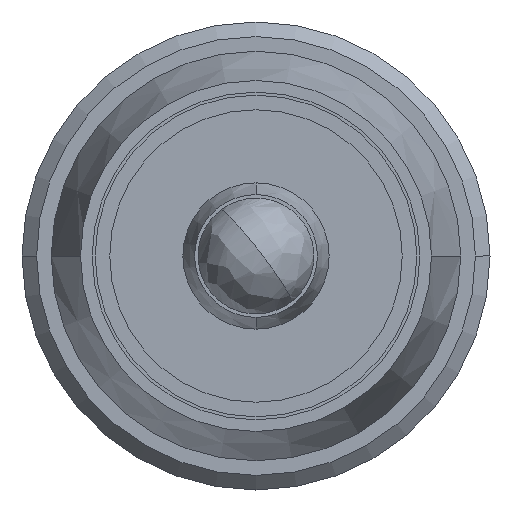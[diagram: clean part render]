
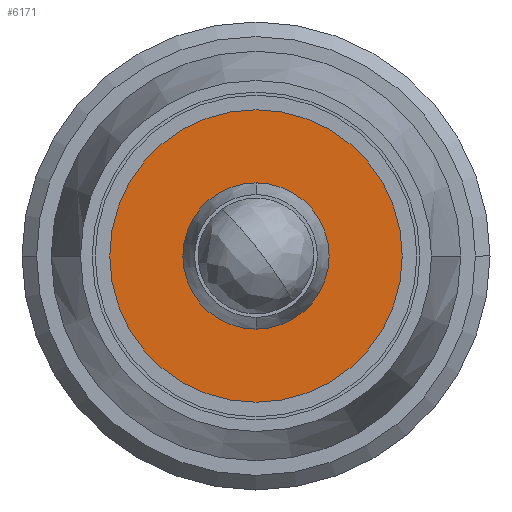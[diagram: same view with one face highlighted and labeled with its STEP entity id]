
A CAD part, left-side view. The second image highlights one B-rep face of the part: STEP entity #6171.
In plain terms, the highlighted planar face has unit normal (-1, 0, 0).
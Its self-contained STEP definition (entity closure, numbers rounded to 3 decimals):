
#1240 = DIRECTION ( 'NONE',  ( 1., 0., 0. ) ) ;
#1241 = CARTESIAN_POINT ( 'NONE',  ( -44.181, 4.117, 0. ) ) ;
#1243 = AXIS2_PLACEMENT_3D ( 'NONE', #1241, #1240, #1286 ) ;
#1244 = CIRCLE ( 'NONE', #1243, 2.5 ) ;
#1286 = DIRECTION ( 'NONE',  ( 0., 0., -1. ) ) ;
#1398 = DIRECTION ( 'NONE',  ( 0., 1., 0. ) ) ;
#1399 = DIRECTION ( 'NONE',  ( 1., 0., 0. ) ) ;
#1400 = CARTESIAN_POINT ( 'NONE',  ( -44.181, 4.117, 0. ) ) ;
#1401 = AXIS2_PLACEMENT_3D ( 'NONE', #1400, #1399, #1398 ) ;
#1402 = CIRCLE ( 'NONE', #1401, 5. ) ;
#1403 = DIRECTION ( 'NONE',  ( 0., -1., 0. ) ) ;
#1404 = DIRECTION ( 'NONE',  ( -1., 0., 0. ) ) ;
#1405 = CARTESIAN_POINT ( 'NONE',  ( -44.181, 0.511, 1.03 ) ) ;
#1406 = AXIS2_PLACEMENT_3D ( 'NONE', #1405, #1404, #1403 ) ;
#1407 = FACE_OUTER_BOUND ( 'NONE', #6175, .T. ) ;
#1408 = FACE_BOUND ( 'NONE', #6172, .T. ) ;
#1413 = PLANE ( 'NONE',  #1406 ) ;
#1556 = CARTESIAN_POINT ( 'NONE',  ( -44.181, 4.117, -2.5 ) ) ;
#1557 = CARTESIAN_POINT ( 'NONE',  ( -44.181, 4.117, 2.5 ) ) ;
#1558 = DIRECTION ( 'NONE',  ( 0., 0., -1. ) ) ;
#1559 = DIRECTION ( 'NONE',  ( 1., 0., 0. ) ) ;
#1560 = CARTESIAN_POINT ( 'NONE',  ( -44.181, 4.117, 0. ) ) ;
#1561 = AXIS2_PLACEMENT_3D ( 'NONE', #1560, #1559, #1558 ) ;
#1562 = CIRCLE ( 'NONE', #1561, 2.5 ) ;
#2705 = CARTESIAN_POINT ( 'NONE',  ( -44.181, 9.117, 0. ) ) ;
#2753 = CARTESIAN_POINT ( 'NONE',  ( -44.181, -0.883, 0. ) ) ;
#2754 = DIRECTION ( 'NONE',  ( 0., 1., 0. ) ) ;
#2755 = DIRECTION ( 'NONE',  ( 1., 0., 0. ) ) ;
#2756 = CARTESIAN_POINT ( 'NONE',  ( -44.181, 4.117, 0. ) ) ;
#2757 = AXIS2_PLACEMENT_3D ( 'NONE', #2756, #2755, #2754 ) ;
#2758 = CIRCLE ( 'NONE', #2757, 5. ) ;
#6023 = EDGE_CURVE ( 'NONE', #6259, #6258, #1244, .T. ) ;
#6171 = ADVANCED_FACE ( 'NONE', ( #1408, #1407 ), #1413, .T. ) ;
#6172 = EDGE_LOOP ( 'NONE', ( #6173, #6174 ) ) ;
#6173 = ORIENTED_EDGE ( 'NONE', *, *, #6023, .T. ) ;
#6174 = ORIENTED_EDGE ( 'NONE', *, *, #6257, .T. ) ;
#6175 = EDGE_LOOP ( 'NONE', ( #6176, #6177 ) ) ;
#6176 = ORIENTED_EDGE ( 'NONE', *, *, #6665, .F. ) ;
#6177 = ORIENTED_EDGE ( 'NONE', *, *, #6178, .F. ) ;
#6178 = EDGE_CURVE ( 'NONE', #6666, #6658, #1402, .T. ) ;
#6257 = EDGE_CURVE ( 'NONE', #6258, #6259, #1562, .T. ) ;
#6258 = VERTEX_POINT ( 'NONE', #1557 ) ;
#6259 = VERTEX_POINT ( 'NONE', #1556 ) ;
#6658 = VERTEX_POINT ( 'NONE', #2705 ) ;
#6665 = EDGE_CURVE ( 'NONE', #6658, #6666, #2758, .T. ) ;
#6666 = VERTEX_POINT ( 'NONE', #2753 ) ;
